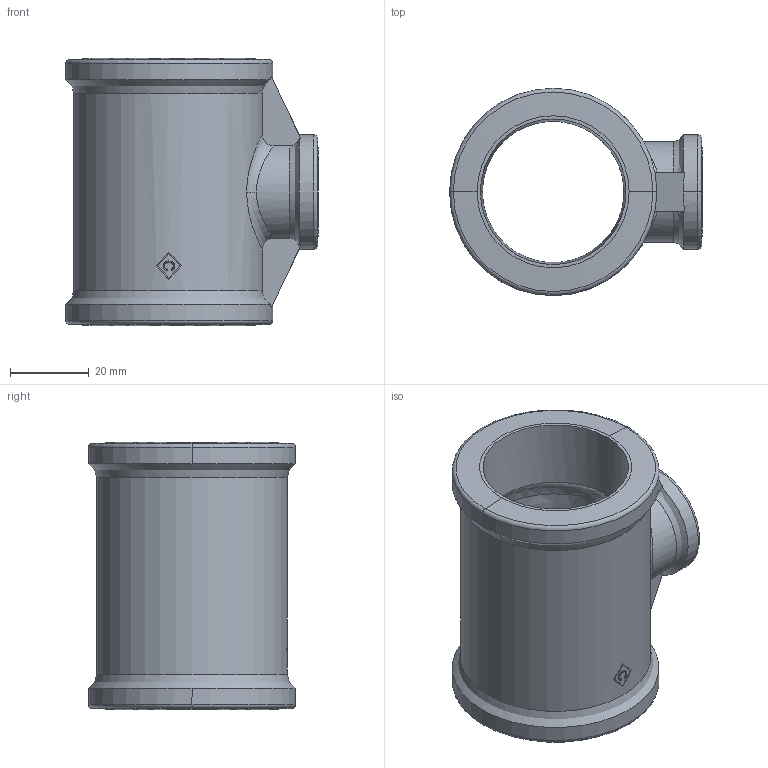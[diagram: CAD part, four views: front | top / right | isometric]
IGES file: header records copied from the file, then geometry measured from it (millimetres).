
Global section: file name: No Iges File Name specified; native system: AutoDesk Inventor R12.0; preprocessor: AutoDesk Inventor Iges Exporter R12.0; date: 20090916.121238; units: millimetre
Bounding box: 64.35 x 52.7 x 68 mm (x, y, z)
Volume: 54740.7 mm3; surface area: 23294.5 mm2
Topology: 1 solids, 1 shells, 76 faces, 212 edges, 140 vertices
Faces by surface type: bspline 24, plane 19, cylinder 12, revolution 9, cone 6, torus 6
